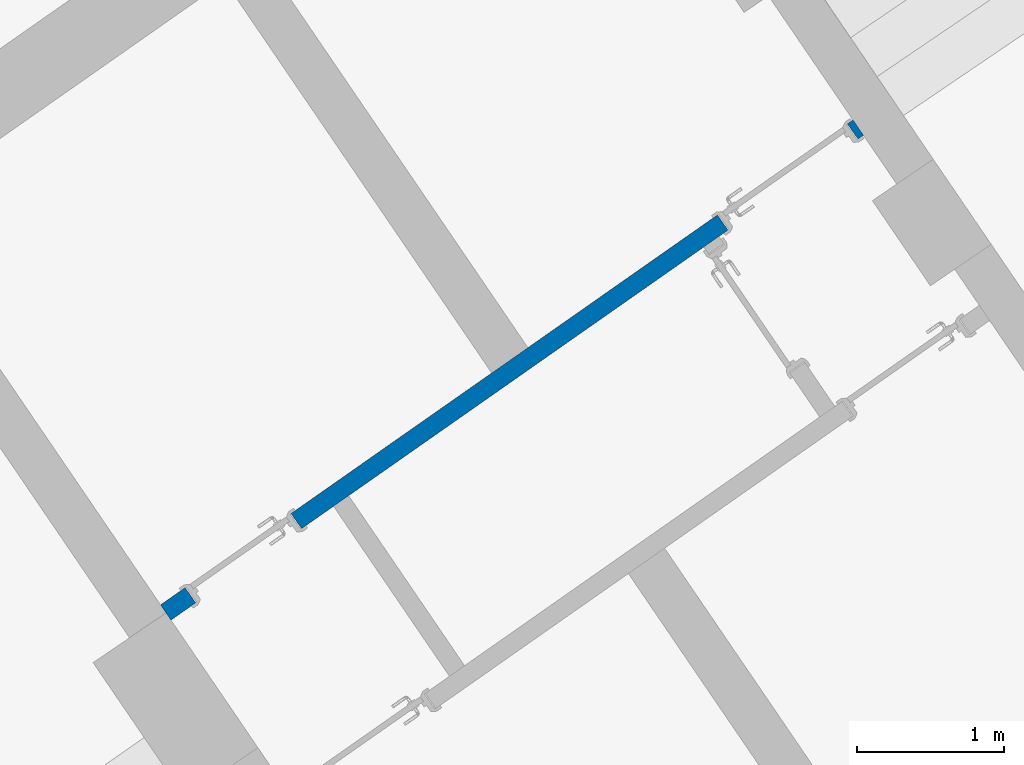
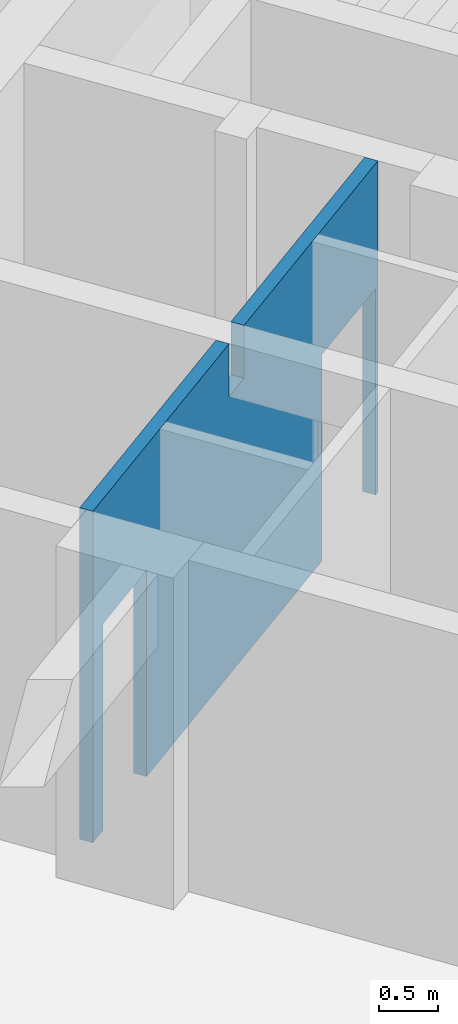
# One storey, part 107 of 112: 1 wall, 2 openings.
"""IFC2X3 building model written with IfcOpenShell, lengths in millimetres."""

from ifc_helpers import new_model, entity, si_unit, converted_unit, derived_unit, direction, frame, frame_2d, origin, place, context, subcontext, project, spatial, rectangle, extrude, faceted_brep, material, layer, layer_set, type_object, element, save


model = new_model("IFC2X3")

# Units and contexts
model_context = context("Model", 3, precision=0.01, world=origin(), true_north=direction((6.123031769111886e-17, 1.0)))
body_context = subcontext(model_context, "Body", "Model", "MODEL_VIEW")
ifc_project = project(units=[si_unit("LENGTHUNIT", "METRE", prefix="MILLI"), si_unit("AREAUNIT", "SQUARE_METRE"), si_unit("VOLUMEUNIT", "CUBIC_METRE"), converted_unit("PLANEANGLEUNIT", "DEGREE", entity("IfcRatioMeasure", 0.017453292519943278), si_unit("PLANEANGLEUNIT", "RADIAN"), dimensions=[0, 0, 0, 0, 0, 0, 0]), si_unit("MASSUNIT", "GRAM", prefix="KILO"), derived_unit("MASSDENSITYUNIT", [(si_unit("MASSUNIT", "GRAM", prefix="KILO"), 1), (si_unit("LENGTHUNIT", "METRE"), -3)]), derived_unit("MOMENTOFINERTIAUNIT", [(si_unit("LENGTHUNIT", "METRE"), 4)]), si_unit("TIMEUNIT", "SECOND"), si_unit("FREQUENCYUNIT", "HERTZ"), si_unit("THERMODYNAMICTEMPERATUREUNIT", "DEGREE_CELSIUS"), derived_unit("THERMALTRANSMITTANCEUNIT", [(si_unit("MASSUNIT", "GRAM", prefix="KILO"), 1), (si_unit("THERMODYNAMICTEMPERATUREUNIT", "KELVIN"), -1), (si_unit("TIMEUNIT", "SECOND"), -3)]), derived_unit("THERMALCONDUCTANCEUNIT", [(si_unit("MASSUNIT", "GRAM", prefix="KILO"), 1), (si_unit("LENGTHUNIT", "METRE"), 1), (si_unit("THERMODYNAMICTEMPERATUREUNIT", "KELVIN"), -1), (si_unit("TIMEUNIT", "SECOND"), -3)]), derived_unit("VOLUMETRICFLOWRATEUNIT", [(si_unit("LENGTHUNIT", "METRE"), 3), (si_unit("TIMEUNIT", "SECOND"), -1)]), derived_unit("MASSFLOWRATEUNIT", [(si_unit("MASSUNIT", "GRAM", prefix="KILO"), 1), (si_unit("TIMEUNIT", "SECOND"), -1)]), derived_unit("ROTATIONALFREQUENCYUNIT", [(si_unit("TIMEUNIT", "SECOND"), -1)]), si_unit("ELECTRICCURRENTUNIT", "AMPERE"), si_unit("ELECTRICVOLTAGEUNIT", "VOLT"), si_unit("POWERUNIT", "WATT"), converted_unit("FORCEUNIT", "KIP", entity("IfcRatioMeasure", 2.088543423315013e-05), si_unit("FORCEUNIT", "NEWTON"), dimensions=[1, 1, -2, 0, 0, 0, 0]), si_unit("ILLUMINANCEUNIT", "LUX"), si_unit("LUMINOUSFLUXUNIT", "LUMEN"), si_unit("LUMINOUSINTENSITYUNIT", "CANDELA"), derived_unit("USERDEFINED", [(si_unit("MASSUNIT", "GRAM", prefix="KILO"), -1), (si_unit("LENGTHUNIT", "METRE"), -2), (si_unit("TIMEUNIT", "SECOND"), 3), (si_unit("LUMINOUSFLUXUNIT", "LUMEN"), 1)]), derived_unit("USERDEFINED", [(si_unit("MASSUNIT", "GRAM", prefix="KILO"), 1), (si_unit("LENGTHUNIT", "METRE"), 3), (si_unit("TIMEUNIT", "SECOND"), -3), (si_unit("ELECTRICCURRENTUNIT", "AMPERE"), -2)]), derived_unit("USERDEFINED", [(si_unit("LENGTHUNIT", "METRE"), 2), (si_unit("TIMEUNIT", "SECOND"), -2)]), derived_unit("SOUNDPOWERUNIT", [(si_unit("MASSUNIT", "GRAM", prefix="KILO"), 1), (si_unit("LENGTHUNIT", "METRE"), 2), (si_unit("TIMEUNIT", "SECOND"), -3)]), derived_unit("SOUNDPRESSUREUNIT", [(si_unit("MASSUNIT", "GRAM", prefix="KILO"), 1), (si_unit("LENGTHUNIT", "METRE"), -1), (si_unit("TIMEUNIT", "SECOND"), -2)]), derived_unit("LINEARVELOCITYUNIT", [(si_unit("LENGTHUNIT", "METRE"), 1), (si_unit("TIMEUNIT", "SECOND"), -1)]), si_unit("PRESSUREUNIT", "PASCAL"), derived_unit("USERDEFINED", [(si_unit("LENGTHUNIT", "METRE"), -2), (si_unit("MASSUNIT", "GRAM", prefix="KILO"), 1), (si_unit("TIMEUNIT", "SECOND"), -2)]), derived_unit("LINEARFORCEUNIT", [(si_unit("MASSUNIT", "GRAM", prefix="KILO"), 1), (si_unit("LENGTHUNIT", "METRE"), 1), (si_unit("TIMEUNIT", "SECOND"), -2), (si_unit("LENGTHUNIT", "METRE"), -1)]), derived_unit("PLANARFORCEUNIT", [(si_unit("MASSUNIT", "GRAM", prefix="KILO"), 1), (si_unit("LENGTHUNIT", "METRE"), 1), (si_unit("TIMEUNIT", "SECOND"), -2), (si_unit("LENGTHUNIT", "METRE"), -2)]), derived_unit("SPECIFICHEATCAPACITYUNIT", [(si_unit("LENGTHUNIT", "METRE"), 2), (si_unit("TIMEUNIT", "SECOND"), -2), (si_unit("THERMODYNAMICTEMPERATUREUNIT", "KELVIN"), -1)]), derived_unit("VAPORPERMEABILITYUNIT", [(si_unit("TIMEUNIT", "SECOND"), 1), (si_unit("LENGTHUNIT", "METRE"), -1)]), derived_unit("DYNAMICVISCOSITYUNIT", [(si_unit("MASSUNIT", "GRAM", prefix="KILO"), 1), (si_unit("LENGTHUNIT", "METRE"), -1), (si_unit("TIMEUNIT", "SECOND"), -1)]), derived_unit("THERMALEXPANSIONCOEFFICIENTUNIT", [(si_unit("THERMODYNAMICTEMPERATUREUNIT", "KELVIN"), -1)])], contexts=[model_context])

# Site, building, storey
site_placement = place(None, frame((0.0, 0.0, 0.0), z_axis=(0.0, 0.0, 1.0), x_axis=(0.8191520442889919, 0.5735764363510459, 0.0)))
site = spatial("IfcSite", under=ifc_project, at=site_placement, Name="Default", CompositionType="ELEMENT")
building_placement = place(site_placement, origin())
building = spatial("IfcBuilding", under=site, at=building_placement, CompositionType="ELEMENT")
storey_placement = place(building_placement, frame((0.0, 0.0, -3600.0)))
storey = spatial("IfcBuildingStorey", under=building, at=storey_placement, Name="0.UG -3.60", CompositionType="ELEMENT", Elevation=-3600.0000000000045)

# Wall, openings
ifc_material = material(Name="Analytical Wall Surface_CJC")
ifc_layer = layer(ifc_material, 125.00000000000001)
ifc_layer_set = layer_set([ifc_layer], Name="Basic Wall:Wand_Innen_12.5")
wall_type = type_object("IfcWallType", Name="Basic Wall:Wand_Innen_12.5", PredefinedType="STANDARD", material=ifc_layer_set)
wall_placement = place(storey_placement, frame((-216167.01186895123, 169233.85891435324, 0.0)))
wall = element("IfcWall", 1, at=wall_placement, inside=storey, type_object=wall_type, Name="Basic Wall:Wand_Innen_12.5", ObjectType="Basic Wall:Wand_Innen_12.5", context=body_context, shape_type="Brep", body=[
    faceted_brep([(0.0, -62.49999999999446, 3450.0), (0.0, -62.49999999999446, 0.0), (205.3953466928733, -62.49999999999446, 0.0), (205.3953466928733, -62.49999999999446, 2150.0), (1085.3953466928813, -62.49999999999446, 2150.0), (1085.3953466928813, -62.49999999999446, 0.0), (1350.419177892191, -62.49999999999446, 0.0), (1475.4287850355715, -62.49999999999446, 0.0), (4425.358562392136, -62.49999999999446, 0.0), (4550.36869127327, -62.49999999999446, 0.0), (4625.395346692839, -62.49999999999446, 0.0), (4625.395346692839, -62.49999999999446, 2150.0), (5705.395346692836, -62.49999999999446, 2150.0), (5705.395346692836, -62.49999999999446, 0.0), (5750.465928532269, -62.49999999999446, 0.0), (5750.465928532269, -62.49999999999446, 3450.0), (4550.36869127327, -62.49999999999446, 3450.0), (4425.358562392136, -62.49999999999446, 3450.0), (3050.259299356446, -62.499999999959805, 3450.0), (3050.2592993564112, -62.499999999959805, 2900.0), (2750.2349900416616, -62.499999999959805, 2900.0), (2750.2349900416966, -62.499999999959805, 3450.0), (1475.4287850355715, -62.49999999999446, 3450.0), (1350.419177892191, -62.49999999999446, 3450.0), (1.591327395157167, 62.49999999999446, 0.0), (1.5913273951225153, 62.49999999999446, 3450.0), (2751.826317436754, 62.500000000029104, 3450.0), (2751.826317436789, 62.500000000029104, 2900.0), (3051.850626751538, 62.500000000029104, 2900.0), (3051.8506267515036, 62.500000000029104, 3450.0), (5752.05725592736, 62.49999999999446, 3450.0), (5752.05725592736, 62.49999999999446, 0.0), (5705.395346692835, 62.49999999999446, 0.0), (5705.395346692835, 62.49999999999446, 2150.0), (4625.395346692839, 62.49999999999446, 2150.0), (4625.395346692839, 62.49999999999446, 0.0), (3051.8506267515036, 62.500000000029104, 0.0), (2751.826317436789, 62.500000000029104, 0.0), (1085.3953466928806, 62.49999999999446, 0.0), (1085.3953466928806, 62.49999999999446, 2150.0), (205.39534669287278, 62.49999999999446, 2150.0), (205.39534669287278, 62.49999999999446, 0.0), (0.7470470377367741, -3.818876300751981, 0.0), (0.7713553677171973, -1.9094381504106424, 0.0), (0.7470470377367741, -3.818876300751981, 3450.0), (0.7713553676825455, -1.9094381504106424, 3450.0)], [[[0, 1, 2, 3, 4, 5, 6, 7, 8, 9, 10, 11, 12, 13, 14, 15, 16, 17, 18, 19, 20, 21, 22, 23]], [[24, 25, 26, 27, 28, 29, 30, 31, 32, 33, 34, 35, 36, 37, 38, 39, 40, 41]], [[1, 42, 43, 24, 41, 2]], [[15, 30, 29, 18, 17, 16]], [[1, 0, 44, 42]], [[44, 45, 43, 42]], [[25, 24, 43, 45]], [[15, 14, 31, 30]], [[28, 19, 18, 29]], [[20, 27, 26, 21]], [[12, 33, 32, 13]], [[33, 12, 11, 34]], [[34, 11, 10, 35]], [[19, 28, 27, 20]], [[40, 3, 2, 41]], [[3, 40, 39, 4]], [[4, 39, 38, 5]], [[25, 45, 44, 0, 23, 22, 21, 26]], [[35, 10, 9, 8, 7, 6, 5, 38, 37, 36]], [[31, 14, 13, 32]]]),
])
opening_1_placement = place(wall_placement, frame((4625.395346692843, -62.500000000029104, 0.0)))
element("IfcOpeningElement", 2, at=opening_1_placement, cuts=wall, Name="Doors_IntSgl:100x210:1", ObjectType="Opening", context=body_context, shape_type="SweptSolid", body=[
    extrude(rectangle(XDim=2150.000000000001, YDim=1079.9999999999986, at=frame_2d((1075.0000000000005, 539.9999999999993), x_axis=(1.0, 0.0))), frame((0.0, 0.0, 0.0), z_axis=(0.0, 1.0, 0.0), x_axis=(0.0, 0.0, 1.0)), (0.0, 0.0, 1.0), 125.00000000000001),
])
opening_2_placement = place(wall_placement, frame((205.39534669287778, -62.49999999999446, 0.0)))
element("IfcOpeningElement", 3, at=opening_2_placement, cuts=wall, Name="Doors_IntSgl:80x210:1", ObjectType="Opening", context=body_context, shape_type="SweptSolid", body=[
    extrude(rectangle(XDim=2150.000000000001, YDim=879.9999999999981, at=frame_2d((1075.0000000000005, 440.0000000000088), x_axis=(1.0, 0.0))), frame((0.0, 0.0, 0.0), z_axis=(0.0, 1.0, 0.0), x_axis=(0.0, 0.0, 1.0)), (0.0, 0.0, 1.0), 125.00000000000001),
])

save(model, "model.ifc")
